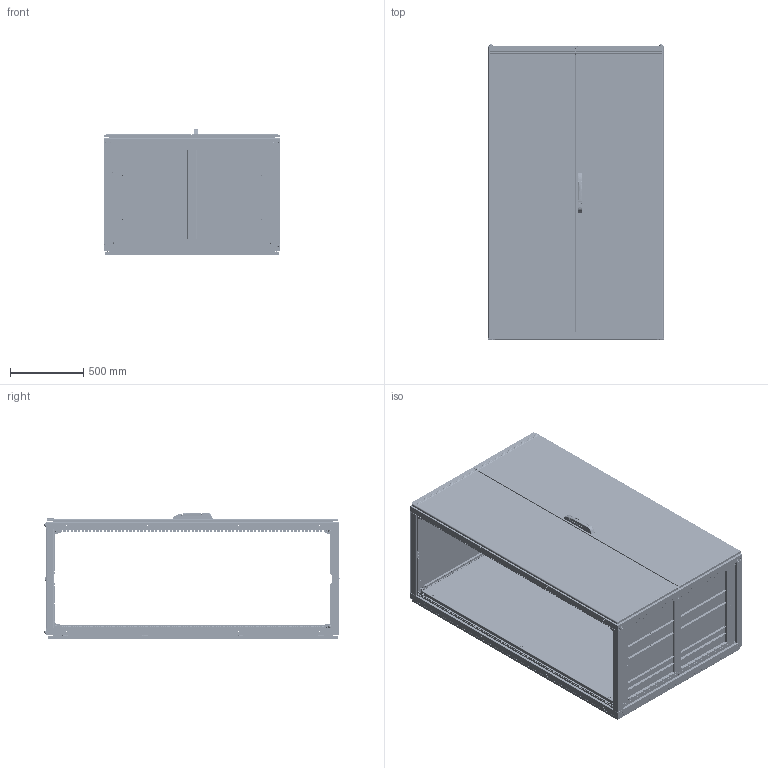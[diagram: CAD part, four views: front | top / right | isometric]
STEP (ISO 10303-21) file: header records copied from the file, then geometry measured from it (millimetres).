
FILE_DESCRIPTION (( 'STEP AP214' ), '1' );
FILE_NAME ('N201208D- 2000 H X 1200 W X 800 D - NEO MODULAR.STEP', '2026-10-01T08:34:20', ( '' ), ( '' ), 'SwSTEP 2.0', 'SolidWorks 2025', '' );
FILE_SCHEMA (( 'AUTOMOTIVE_DESIGN' ));
Length unit declared in the file: millimetre
Products named in the file (108): 03-Base Sheet U1 04-2012VER3 NEO26-12_PP 12.0038 - 1200-200; Mirror MP 11.0188 Support Part ans Locking; epdm gasketVER3 NEO26-12; Tekpan Lock Handle_tekpan; BOYUNA DELIKLI PROFILVER3 NEO26-12me_2000; Body Cover; TEOS-NEO MP Right Bracket with pin_Klavuzlu; M5x10mm YHB Bolt_PreviewCfg_1__1_1; 03-Base Sheet U1 04-2012VER3 NEO26-12_PP 12.0038 - 1200; socket head cap screw_am_B18.3.1M - 8 x 1.25 x 35 Hex SHCS -- 35NHX; 4,6 Diameter plug; YM 3020; plain washer normal grade a_iso_Washer ISO 7089 - 12; Mounting Plate bottom wedge screw; socket button head screw_iso_ISO 7380 - M12 x 30 - 30C; NEO Modular Depth_800; F║ºE KAPAMA_; TEOS-NEO MP pin; TEOS-NEO MP Left Bracket with pin_Sıfır Pozisyonu; Frame 2015VER3 NEO26-12_1200x2000; F║ºE º║FRE_; NEO Modular Frame Assembly_1200x2000x800; pan head cross recess screw_iso89_ISO 7045 - M5 x 10 - Z --- 10C; MP 14.0007 M6 Plastic Countersink; F║ºE KAPAK_; M6 KAFES SOMUN; Vertical Profile NEO26-12_PP 16.0014 H 2000; 2751_1_1_schrack; NEO Modular Top Cover_1200x800; M8 Somun Kafesi_m8; HO 2000 019CK_1__1_1; NEO Base depth Part_PP 16.0097 800; 03-Base Sheet U1 04-2012VER3 NEO26-12_PP 12.0043 - 1200-75; M6 Kare Somun; Teos-Neo 3mm MOUNTING PLATE_TEOS MP 1200x2000; YZE068T__1_1; 22032010-PLASTIK KOSE50x40VER3 NEO26-12me; 4X8 Rivet; N201208D- 2000 H X 1200 W X 800 D - NEO MODULAR; YM 1473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
Assembly tree (315 placements, depth 5):
  N201208D- 2000 H X 1200 W X 800 D - NEO MODULAR
    NEO Modular Frame Assembly_1200x2000x800
      Frame 2015VER3 NEO26-12_1200x2000  x2
        Vertical Profile NEO26-12_PP 16.0014 H 2000
        Top WidthVER3 NEO26-19_PP 16.0010 1200 GEN.ÜST
        Top WidthVER3 NEO26-19_PP 16.0009 1200 GEN.ALT
        Carriage  Nut  VER3 NEO26-12_25x25
        hex nut heavy_am_B18.2.4.6M - Heavy hex nut,  M12 x 1.75 --W-N
        MP 0701.0050 M8 Rivetnut
      NEO Modular Depth_800  x4
        Depth Part VER3 NEO26-12_PP 16.0018   800
        Depth Inner Corner VER3 NEO26-12_PP 16.0024 800 D İÇ
        epdm gasketVER3 NEO26-12
        square washer nut VER3 NEO26-12
        square washer NEO26-12
        socket head cap screw_am_B18.3.1M - 8 x 1.25 x 20 Hex SHCS -- 20NHX
        curved spring lock washer_din_Spring washer DIN 128 - A8
        4X8 Rivet
        4X8 Rivet_4X8
      TEOS-NEO Base sheet metal parts_1200x800  x2
        03-Base Sheet U1 04-2012VER3 NEO26-12_PP 12.0043 - 1200-75
        Base sheet slide part_PP 12.0033 - 1200
        03-Base Sheet U1 04-2012VER3 NEO26-12_PP 12.0038 - 1200-200
        03-Base Sheet U1 04-2012VER3 NEO26-12_PP 12.0038 - 1200
      NEO Base Width Part_PP 16.0102 1200 GENİŞLİK  x2
      pan head cross recess screw_iso121_ISO 7045 - M3 x 20 - Z --- 20N  x20
      NEO Base depth Part_PP 16.0097 800  x2
      03taban derinlik orta  percinli 04-2012_PP 16.0120 -800
      NEO Mounting plate sled_PP 16.1239-800  x2
      4,6 Diameter plug  x2
    NEO Modular Rear Panel_1200x2000
      Rear Panel Sheet - Neo_PP 16.0051 1200x2000
      arka kapak orta çektirme NEO A2-REVİZE 1  x2
      pan head cross recess screw_iso121_ISO 7045 - M3 x 20 - Z --- 20N  x20
      MP 14.0007 M6 Plastic Countersink  x10
      countersunk flat head cross recess screw_iso_ISO 7046-1 - M6 x 25 - Z --- 25C  x10
      M6 KAFES SOMUN  x2
        M6 Somun Kafesi
        M6 Kare Somun
      ARKA KAPAK BRAKETVER3 NEO26-12  x8
    NEO Modular Top Cover_1200x800
      Top Cover Sheet_PP 16.0074 1200X800 UST KAPAK
      countersunk flat head cross recess screw_iso_ISO 7046-1 - M6 x 25 - Z --- 25C  x2
      MP 14.0007 M6 Plastic Countersink  x2
      plain washer normal grade a_iso_Washer ISO 7089 - 12  x4
      socket button head screw_iso_ISO 7380 - M12 x 30 - 30C  x4
      Top Cover  3mm Stopper  x4
    NEO Right Front Door_1200x2000
      Right Door Sheet 2 mm_PP 16.0092 1200X2000 SAĞ
      Front Slat_1200 sağ
      Profile Frame with hole Neo_1200x2000
        ENINE DELIKLI PROFILVER3 NEO26-12me_1200  x2
        BOYUNA DELIKLI PROFILVER3 NEO26-12me_2000  x2
        22032010-PLASTIK KOSE50x40VER3 NEO26-12me  x4
      Lock Hinge_1800-Cift
        2751_1_1_schrack
          MSBR-7_1__1_1
          YZE124TKK_1__1_1
          F║ºE G=VDE_
          F║ºE KAPAMA_
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Bounding box: 1200.1 x 2014.6 x 864.99 mm (x, y, z)
Volume: 23913896.3 mm3; surface area: 28487893.2 mm2
Topology: 415 solids, 415 shells, 34351 faces, 92387 edges, 58560 vertices
Faces by surface type: plane 17793, cylinder 12331, cone 1849, torus 1081, bspline 954, sphere 343
Entity records: 408026 total; most frequent: CARTESIAN_POINT 115739, ORIENTED_EDGE 61672, DIRECTION 56988, EDGE_CURVE 30836, VERTEX_POINT 19720, AXIS2_PLACEMENT_3D 19378, VECTOR 18232, LINE 18232
